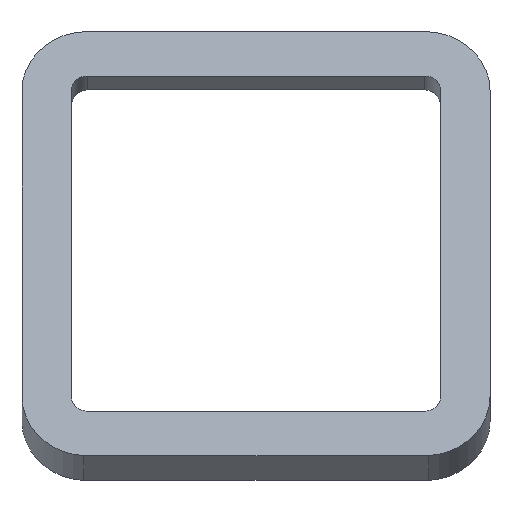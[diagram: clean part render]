
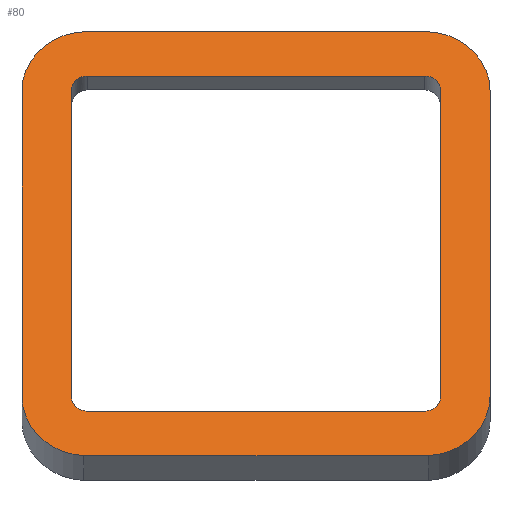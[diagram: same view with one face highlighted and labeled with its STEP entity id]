
A CAD part, front view. The second image highlights one B-rep face of the part: STEP entity #80.
In plain terms, the highlighted planar face has unit normal (0, -0.906, 0.423).
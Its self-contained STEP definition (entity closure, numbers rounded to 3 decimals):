
#80 = ADVANCED_FACE( '', ( #164, #165 ), #166, .F. );
#164 = FACE_BOUND( '', #252, .T. );
#165 = FACE_OUTER_BOUND( '', #253, .T. );
#166 = PLANE( '', #254 );
#252 = EDGE_LOOP( '', ( #358, #359, #360, #361, #362, #363, #364, #365 ) );
#253 = EDGE_LOOP( '', ( #366, #367, #368, #369, #370, #371, #372, #373 ) );
#254 = AXIS2_PLACEMENT_3D( '', #374, #375, #376 );
#358 = ORIENTED_EDGE( '', *, *, #551, .T. );
#359 = ORIENTED_EDGE( '', *, *, #552, .T. );
#360 = ORIENTED_EDGE( '', *, *, #553, .T. );
#361 = ORIENTED_EDGE( '', *, *, #554, .T. );
#362 = ORIENTED_EDGE( '', *, *, #555, .T. );
#363 = ORIENTED_EDGE( '', *, *, #556, .T. );
#364 = ORIENTED_EDGE( '', *, *, #548, .T. );
#365 = ORIENTED_EDGE( '', *, *, #557, .T. );
#366 = ORIENTED_EDGE( '', *, *, #558, .F. );
#367 = ORIENTED_EDGE( '', *, *, #559, .F. );
#368 = ORIENTED_EDGE( '', *, *, #560, .F. );
#369 = ORIENTED_EDGE( '', *, *, #561, .F. );
#370 = ORIENTED_EDGE( '', *, *, #562, .F. );
#371 = ORIENTED_EDGE( '', *, *, #528, .F. );
#372 = ORIENTED_EDGE( '', *, *, #563, .F. );
#373 = ORIENTED_EDGE( '', *, *, #523, .F. );
#374 = CARTESIAN_POINT( '', ( 84., -1.361, 15.877 ) );
#375 = DIRECTION( '', ( 0., 0.906, -0.423 ) );
#376 = DIRECTION( '', ( 0., 0.423, 0.906 ) );
#523 = EDGE_CURVE( '', #606, #601, #608, .T. );
#528 = EDGE_CURVE( '', #615, #610, #617, .T. );
#548 = EDGE_CURVE( '', #653, #651, #654, .T. );
#551 = EDGE_CURVE( '', #657, #658, #659, .T. );
#552 = EDGE_CURVE( '', #658, #660, #661, .T. );
#553 = EDGE_CURVE( '', #660, #662, #663, .T. );
#554 = EDGE_CURVE( '', #662, #664, #665, .T. );
#555 = EDGE_CURVE( '', #664, #666, #667, .T. );
#556 = EDGE_CURVE( '', #666, #653, #668, .T. );
#557 = EDGE_CURVE( '', #651, #657, #669, .T. );
#558 = EDGE_CURVE( '', #670, #606, #671, .T. );
#559 = EDGE_CURVE( '', #672, #670, #673, .T. );
#560 = EDGE_CURVE( '', #674, #672, #675, .T. );
#561 = EDGE_CURVE( '', #676, #674, #677, .T. );
#562 = EDGE_CURVE( '', #610, #676, #678, .T. );
#563 = EDGE_CURVE( '', #601, #615, #679, .T. );
#601 = VERTEX_POINT( '', #722 );
#606 = VERTEX_POINT( '', #728 );
#608 = CIRCLE( '', #731, 10. );
#610 = VERTEX_POINT( '', #733 );
#615 = VERTEX_POINT( '', #739 );
#617 = CIRCLE( '', #742, 10. );
#651 = VERTEX_POINT( '', #785 );
#653 = VERTEX_POINT( '', #788 );
#654 = LINE( '', #789, #790 );
#657 = VERTEX_POINT( '', #794 );
#658 = VERTEX_POINT( '', #795 );
#659 = LINE( '', #796, #797 );
#660 = VERTEX_POINT( '', #798 );
#661 = CIRCLE( '', #799, 2.5 );
#662 = VERTEX_POINT( '', #800 );
#663 = LINE( '', #801, #802 );
#664 = VERTEX_POINT( '', #803 );
#665 = CIRCLE( '', #804, 2.5 );
#666 = VERTEX_POINT( '', #805 );
#667 = LINE( '', #806, #807 );
#668 = CIRCLE( '', #808, 2.5 );
#669 = CIRCLE( '', #809, 2.5 );
#670 = VERTEX_POINT( '', #810 );
#671 = LINE( '', #811, #812 );
#672 = VERTEX_POINT( '', #813 );
#673 = CIRCLE( '', #814, 10. );
#674 = VERTEX_POINT( '', #815 );
#675 = LINE( '', #816, #817 );
#676 = VERTEX_POINT( '', #818 );
#677 = CIRCLE( '', #819, 10. );
#678 = LINE( '', #820, #821 );
#679 = LINE( '', #822, #823 );
#722 = CARTESIAN_POINT( '', ( -3.75, -27.358, -39.874 ) );
#728 = CARTESIAN_POINT( '', ( 5.717, -31.578, -48.924 ) );
#731 = AXIS2_PLACEMENT_3D( '', #885, #886, #887 );
#733 = CARTESIAN_POINT( '', ( 6.25, -1.367, 15.864 ) );
#739 = CARTESIAN_POINT( '', ( -3.75, -5.593, 6.801 ) );
#742 = AXIS2_PLACEMENT_3D( '', #893, #894, #895 );
#785 = CARTESIAN_POINT( '', ( 6.25, -28.415, -42.14 ) );
#788 = CARTESIAN_POINT( '', ( 57.75, -28.415, -42.14 ) );
#789 = CARTESIAN_POINT( '', ( 6.25, -28.415, -42.14 ) );
#790 = VECTOR( '', #924, 1000. );
#794 = CARTESIAN_POINT( '', ( 3.75, -27.358, -39.874 ) );
#795 = CARTESIAN_POINT( '', ( 3.75, -5.593, 6.801 ) );
#796 = CARTESIAN_POINT( '', ( 3.75, -5.593, 6.801 ) );
#797 = VECTOR( '', #926, 1000. );
#798 = CARTESIAN_POINT( '', ( 6.25, -4.537, 9.067 ) );
#799 = AXIS2_PLACEMENT_3D( '', #927, #928, #929 );
#800 = CARTESIAN_POINT( '', ( 57.75, -4.537, 9.067 ) );
#801 = CARTESIAN_POINT( '', ( 57.75, -4.537, 9.067 ) );
#802 = VECTOR( '', #930, 1000. );
#803 = CARTESIAN_POINT( '', ( 60.25, -5.593, 6.801 ) );
#804 = AXIS2_PLACEMENT_3D( '', #931, #932, #933 );
#805 = CARTESIAN_POINT( '', ( 60.25, -27.358, -39.874 ) );
#806 = CARTESIAN_POINT( '', ( 60.25, -27.358, -39.874 ) );
#807 = VECTOR( '', #934, 1000. );
#808 = AXIS2_PLACEMENT_3D( '', #935, #936, #937 );
#809 = AXIS2_PLACEMENT_3D( '', #938, #939, #940 );
#810 = CARTESIAN_POINT( '', ( 58.283, -31.578, -48.924 ) );
#811 = CARTESIAN_POINT( '', ( 84., -31.578, -48.924 ) );
#812 = VECTOR( '', #941, 1000. );
#813 = CARTESIAN_POINT( '', ( 67.75, -27.358, -39.874 ) );
#814 = AXIS2_PLACEMENT_3D( '', #942, #943, #944 );
#815 = CARTESIAN_POINT( '', ( 67.75, -5.593, 6.801 ) );
#816 = CARTESIAN_POINT( '', ( 67.75, -27.358, -39.874 ) );
#817 = VECTOR( '', #945, 1000. );
#818 = CARTESIAN_POINT( '', ( 57.75, -1.367, 15.864 ) );
#819 = AXIS2_PLACEMENT_3D( '', #946, #947, #948 );
#820 = CARTESIAN_POINT( '', ( 57.75, -1.367, 15.864 ) );
#821 = VECTOR( '', #949, 1000. );
#822 = CARTESIAN_POINT( '', ( -3.75, -5.593, 6.801 ) );
#823 = VECTOR( '', #950, 1000. );
#885 = CARTESIAN_POINT( '', ( 6.25, -27.358, -39.874 ) );
#886 = DIRECTION( '', ( 0., 0.906, -0.423 ) );
#887 = DIRECTION( '', ( 0., 0.423, 0.906 ) );
#893 = CARTESIAN_POINT( '', ( 6.25, -5.593, 6.801 ) );
#894 = DIRECTION( '', ( 0., 0.906, -0.423 ) );
#895 = DIRECTION( '', ( 0., 0.423, 0.906 ) );
#924 = DIRECTION( '', ( -1., 0., 0. ) );
#926 = DIRECTION( '', ( 0., 0.423, 0.906 ) );
#927 = CARTESIAN_POINT( '', ( 6.25, -5.593, 6.801 ) );
#928 = DIRECTION( '', ( 0., 0.906, -0.423 ) );
#929 = DIRECTION( '', ( 0., 0.423, 0.906 ) );
#930 = DIRECTION( '', ( 1., 0., 0. ) );
#931 = CARTESIAN_POINT( '', ( 57.75, -5.593, 6.801 ) );
#932 = DIRECTION( '', ( 0., 0.906, -0.423 ) );
#933 = DIRECTION( '', ( 0., 0.423, 0.906 ) );
#934 = DIRECTION( '', ( 0., -0.423, -0.906 ) );
#935 = CARTESIAN_POINT( '', ( 57.75, -27.358, -39.874 ) );
#936 = DIRECTION( '', ( 0., 0.906, -0.423 ) );
#937 = DIRECTION( '', ( 0., 0.423, 0.906 ) );
#938 = CARTESIAN_POINT( '', ( 6.25, -27.358, -39.874 ) );
#939 = DIRECTION( '', ( 0., 0.906, -0.423 ) );
#940 = DIRECTION( '', ( 0., 0.423, 0.906 ) );
#941 = DIRECTION( '', ( -1., 0., 0. ) );
#942 = CARTESIAN_POINT( '', ( 57.75, -27.358, -39.874 ) );
#943 = DIRECTION( '', ( 0., 0.906, -0.423 ) );
#944 = DIRECTION( '', ( 0., 0.423, 0.906 ) );
#945 = DIRECTION( '', ( 0., -0.423, -0.906 ) );
#946 = CARTESIAN_POINT( '', ( 57.75, -5.593, 6.801 ) );
#947 = DIRECTION( '', ( 0., 0.906, -0.423 ) );
#948 = DIRECTION( '', ( 0., 0.423, 0.906 ) );
#949 = DIRECTION( '', ( 1., 0., 0. ) );
#950 = DIRECTION( '', ( 0., 0.423, 0.906 ) );
